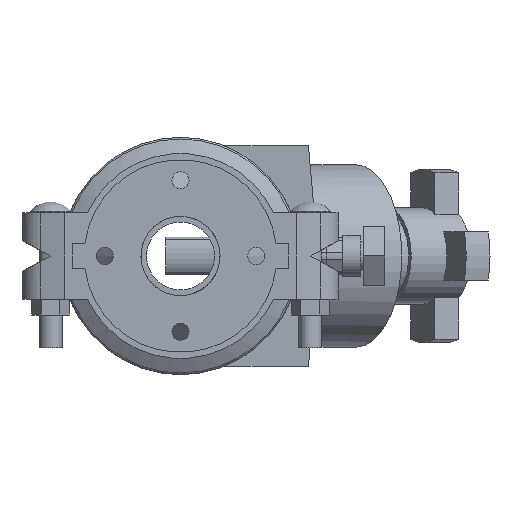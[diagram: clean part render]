
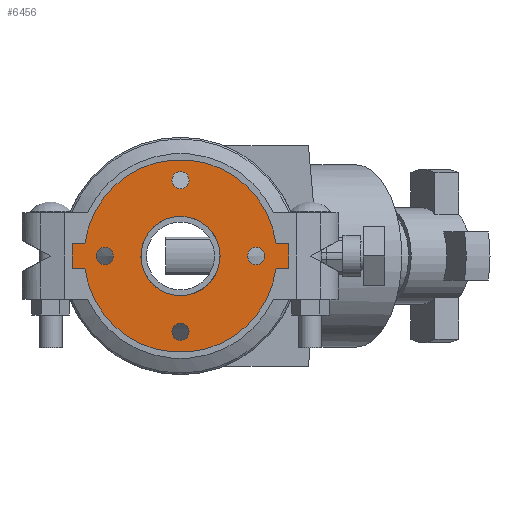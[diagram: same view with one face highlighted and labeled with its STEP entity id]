
A CAD part, front view. The second image highlights one B-rep face of the part: STEP entity #6456.
In plain terms, the highlighted planar face has unit normal (0, -1, 0) as drawn and (0, 0, 1) by its records, which use the part's own axes.
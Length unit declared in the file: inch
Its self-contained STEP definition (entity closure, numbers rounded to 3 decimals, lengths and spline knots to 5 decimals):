
#175=FACE_BOUND('',#821,.T.);
#176=FACE_BOUND('',#822,.T.);
#177=FACE_BOUND('',#823,.T.);
#178=FACE_BOUND('',#824,.T.);
#179=FACE_BOUND('',#825,.T.);
#245=PLANE('',#7025);
#461=FACE_OUTER_BOUND('',#820,.T.);
#820=EDGE_LOOP('',(#4182,#4183,#4184,#4185,#4186,#4187,#4188,#4189));
#821=EDGE_LOOP('',(#4190));
#822=EDGE_LOOP('',(#4191));
#823=EDGE_LOOP('',(#4192));
#824=EDGE_LOOP('',(#4193));
#825=EDGE_LOOP('',(#4194,#4195));
#1239=LINE('',#9852,#1726);
#1240=LINE('',#9855,#1727);
#1243=LINE('',#9860,#1730);
#1244=LINE('',#9863,#1731);
#1246=LINE('',#9866,#1733);
#1247=LINE('',#9868,#1734);
#1726=VECTOR('',#7831,0.3937);
#1727=VECTOR('',#7834,0.3937);
#1730=VECTOR('',#7839,0.3937);
#1731=VECTOR('',#7842,0.3937);
#1733=VECTOR('',#7846,0.3937);
#1734=VECTOR('',#7849,0.3937);
#2197=CIRCLE('',#6996,0.3125);
#2199=CIRCLE('',#6999,0.3125);
#2201=CIRCLE('',#7002,0.3125);
#2203=CIRCLE('',#7005,0.3125);
#2209=CIRCLE('',#7013,3.5);
#2210=CIRCLE('',#7015,1.4375);
#2211=CIRCLE('',#7016,1.4375);
#2212=CIRCLE('',#7018,3.5);
#2564=VERTEX_POINT('',#9787);
#2566=VERTEX_POINT('',#9793);
#2568=VERTEX_POINT('',#9799);
#2570=VERTEX_POINT('',#9805);
#2582=VERTEX_POINT('',#9832);
#2583=VERTEX_POINT('',#9834);
#2584=VERTEX_POINT('',#9838);
#2585=VERTEX_POINT('',#9840);
#2586=VERTEX_POINT('',#9844);
#2587=VERTEX_POINT('',#9846);
#2588=VERTEX_POINT('',#9850);
#2589=VERTEX_POINT('',#9854);
#2590=VERTEX_POINT('',#9858);
#2591=VERTEX_POINT('',#9862);
#3191=EDGE_CURVE('',#2564,#2564,#2197,.T.);
#3194=EDGE_CURVE('',#2566,#2566,#2199,.T.);
#3197=EDGE_CURVE('',#2568,#2568,#2201,.T.);
#3200=EDGE_CURVE('',#2570,#2570,#2203,.T.);
#3215=EDGE_CURVE('',#2582,#2583,#2209,.T.);
#3217=EDGE_CURVE('',#2585,#2584,#2210,.T.);
#3218=EDGE_CURVE('',#2584,#2585,#2211,.T.);
#3220=EDGE_CURVE('',#2587,#2586,#2212,.T.);
#3223=EDGE_CURVE('',#2583,#2588,#1239,.T.);
#3224=EDGE_CURVE('',#2589,#2587,#1240,.T.);
#3227=EDGE_CURVE('',#2586,#2590,#1243,.T.);
#3228=EDGE_CURVE('',#2591,#2582,#1244,.T.);
#3230=EDGE_CURVE('',#2590,#2591,#1246,.T.);
#3231=EDGE_CURVE('',#2588,#2589,#1247,.T.);
#4182=ORIENTED_EDGE('',*,*,#3227,.T.);
#4183=ORIENTED_EDGE('',*,*,#3230,.T.);
#4184=ORIENTED_EDGE('',*,*,#3228,.T.);
#4185=ORIENTED_EDGE('',*,*,#3215,.T.);
#4186=ORIENTED_EDGE('',*,*,#3223,.T.);
#4187=ORIENTED_EDGE('',*,*,#3231,.T.);
#4188=ORIENTED_EDGE('',*,*,#3224,.T.);
#4189=ORIENTED_EDGE('',*,*,#3220,.T.);
#4190=ORIENTED_EDGE('',*,*,#3191,.T.);
#4191=ORIENTED_EDGE('',*,*,#3194,.T.);
#4192=ORIENTED_EDGE('',*,*,#3197,.T.);
#4193=ORIENTED_EDGE('',*,*,#3200,.T.);
#4194=ORIENTED_EDGE('',*,*,#3217,.T.);
#4195=ORIENTED_EDGE('',*,*,#3218,.T.);
#6456=ADVANCED_FACE('',(#461,#175,#176,#177,#178,#179),#245,.T.);
#6996=AXIS2_PLACEMENT_3D('',#9788,#7767,#7768);
#6999=AXIS2_PLACEMENT_3D('',#9794,#7774,#7775);
#7002=AXIS2_PLACEMENT_3D('',#9800,#7781,#7782);
#7005=AXIS2_PLACEMENT_3D('',#9806,#7788,#7789);
#7013=AXIS2_PLACEMENT_3D('',#9836,#7813,#7814);
#7015=AXIS2_PLACEMENT_3D('',#9841,#7818,#7819);
#7016=AXIS2_PLACEMENT_3D('',#9842,#7820,#7821);
#7018=AXIS2_PLACEMENT_3D('',#9847,#7825,#7826);
#7025=AXIS2_PLACEMENT_3D('',#9869,#7850,#7851);
#7767=DIRECTION('center_axis',(0.,0.,-1.));
#7768=DIRECTION('ref_axis',(0.,1.,0.));
#7774=DIRECTION('center_axis',(0.,0.,-1.));
#7775=DIRECTION('ref_axis',(1.,0.,0.));
#7781=DIRECTION('center_axis',(0.,0.,-1.));
#7782=DIRECTION('ref_axis',(0.,-1.,0.));
#7788=DIRECTION('center_axis',(0.,0.,-1.));
#7789=DIRECTION('ref_axis',(-1.,0.,0.));
#7813=DIRECTION('center_axis',(0.,0.,1.));
#7814=DIRECTION('ref_axis',(-1.,0.,0.));
#7818=DIRECTION('center_axis',(0.,0.,-1.));
#7819=DIRECTION('ref_axis',(-1.,0.,0.));
#7820=DIRECTION('center_axis',(0.,0.,-1.));
#7821=DIRECTION('ref_axis',(-1.,0.,0.));
#7825=DIRECTION('center_axis',(0.,0.,1.));
#7826=DIRECTION('ref_axis',(-1.,0.,0.));
#7831=DIRECTION('',(0.,1.,0.));
#7834=DIRECTION('',(0.,-1.,0.));
#7839=DIRECTION('',(0.,-1.,0.));
#7842=DIRECTION('',(0.,1.,0.));
#7846=DIRECTION('',(1.,0.,0.));
#7849=DIRECTION('',(-1.,0.,0.));
#7850=DIRECTION('center_axis',(0.,0.,1.));
#7851=DIRECTION('ref_axis',(1.,0.,0.));
#9787=CARTESIAN_POINT('',(0.,2.4375,0.44));
#9788=CARTESIAN_POINT('Origin',(0.,2.75,0.44));
#9793=CARTESIAN_POINT('',(2.4375,0.,0.44));
#9794=CARTESIAN_POINT('Origin',(2.75,0.,0.44));
#9799=CARTESIAN_POINT('',(0.,-2.4375,0.44));
#9800=CARTESIAN_POINT('Origin',(0.,-2.75,0.44));
#9805=CARTESIAN_POINT('',(-2.4375,0.,0.44));
#9806=CARTESIAN_POINT('Origin',(-2.75,0.,0.44));
#9832=CARTESIAN_POINT('',(0.44,-3.47223,0.44));
#9834=CARTESIAN_POINT('',(0.44,3.47223,0.44));
#9836=CARTESIAN_POINT('Origin',(0.,0.,0.44));
#9838=CARTESIAN_POINT('',(1.4375,0.,0.44));
#9840=CARTESIAN_POINT('',(0.44,1.36851,0.44));
#9841=CARTESIAN_POINT('Origin',(0.,0.,0.44));
#9842=CARTESIAN_POINT('Origin',(0.,0.,0.44));
#9844=CARTESIAN_POINT('',(-0.44,-3.47223,0.44));
#9846=CARTESIAN_POINT('',(-0.44,3.47223,0.44));
#9847=CARTESIAN_POINT('Origin',(0.,0.,0.44));
#9850=CARTESIAN_POINT('',(0.44,3.94,0.44));
#9852=CARTESIAN_POINT('',(0.44,3.94,0.44));
#9854=CARTESIAN_POINT('',(-0.44,3.94,0.44));
#9855=CARTESIAN_POINT('',(-0.44,-3.94,0.44));
#9858=CARTESIAN_POINT('',(-0.44,-3.94,0.44));
#9860=CARTESIAN_POINT('',(-0.44,-3.94,0.44));
#9862=CARTESIAN_POINT('',(0.44,-3.94,0.44));
#9863=CARTESIAN_POINT('',(0.44,3.94,0.44));
#9866=CARTESIAN_POINT('',(0.44,-3.94,0.44));
#9868=CARTESIAN_POINT('',(-0.44,3.94,0.44));
#9869=CARTESIAN_POINT('Origin',(0.,0.,0.44));
